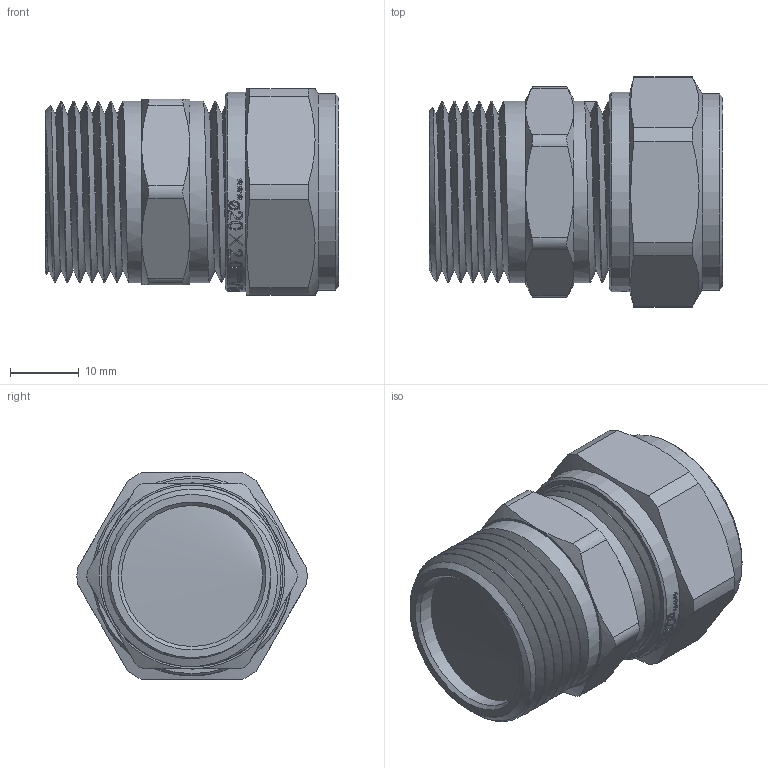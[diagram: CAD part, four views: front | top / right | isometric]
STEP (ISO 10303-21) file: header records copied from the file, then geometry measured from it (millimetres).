
FILE_DESCRIPTION(/* description */ (''),/* implementation_level */ '2;1');
FILE_NAME(/* name */ 'E:\Артём\00000\Работа удаленка\Обжимные фитинги\VTm.301.N.002005.stp',/* time_stamp */ '2020-05-20T16:54:44+03:00',/* author */ ('BeN_GaN'),/* organization */ (''),/* preprocessor_version */ 'ST-DEVELOPER v18',/* originating_system */ 'Autodesk Inventor 2020',/* authorisation */ '');
FILE_SCHEMA (('AUTOMOTIVE_DESIGN { 1 0 10303 214 3 1 1 }'));
Length unit declared in the file: millimetre
Products named in the file (1): VTm.301.N.002005
Bounding box: 42.63 x 33.43 x 30 mm (x, y, z)
Volume: 14419.8 mm3; surface area: 12500.1 mm2
Topology: 1 solids, 2 shells, 661 faces, 1847 edges, 1245 vertices
Faces by surface type: bspline 346, plane 170, cylinder 95, cone 27, torus 23
Full cylindrical faces by diameter (mm): 11.5 x1, 13.4 x2, 15.75 x4, 19.785 x4, 20.2 x1, 20.5 x1, 20.527 x5, 21 x1, 22.8 x10, 23 x1, 24.2 x1, 26.4 x8, 28.5 x1, 29 x1
Entity records: 29044 total; most frequent: CARTESIAN_POINT 14276, ORIENTED_EDGE 3694, DIRECTION 1994, EDGE_CURVE 1847, VERTEX_POINT 1245, B_SPLINE_CURVE_WITH_KNOTS 759, LINE 742, VECTOR 742
